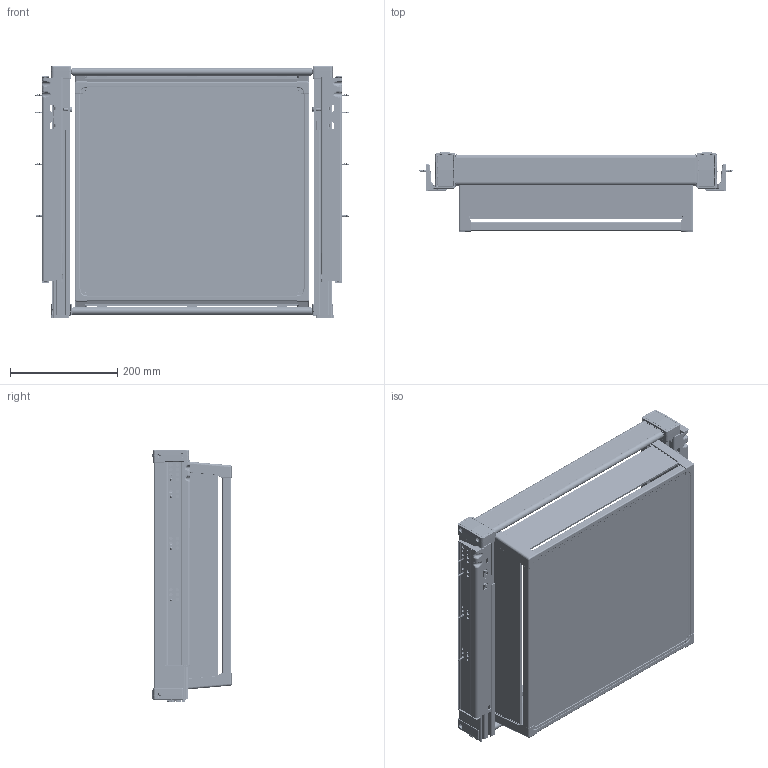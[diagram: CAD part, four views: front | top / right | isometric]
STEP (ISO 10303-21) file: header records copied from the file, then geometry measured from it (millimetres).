
FILE_DESCRIPTION (( 'STEP AP203' ), '1' );
FILE_NAME ('S-6701.STEP', '2024-09-20T07:08:03', ( '' ), ( '' ), 'SwSTEP 2.0', 'SolidWorks 2020', '' );
FILE_SCHEMA (( 'CONFIG_CONTROL_DESIGN' ));
Length unit declared in the file: millimetre
Products named in the file (57): SEPET KÖÞE PLASTÝÐÝ 1; AynalamaTANDEM ÇEKMECE RAYI SOL PRÇ.7-SOL; AynalamaTANDEM ÇEKMECE RAYI SOL PRÇ.4-SOL; TANDEM ÇEKMECE RAYI SOL MJ-SOL; TANDEM ÇEKMECE RAYI SOL PRÇ.6-SOL; AynalamaAlm.Profil Arka Köþe Birleþtirme Pls SOL; PLEKSÝ 1; ASKI TUTUCU ÝÇ PROFÝL; SPSK_M5; TANDEM ÇEKMECE RAYI SOL-SOL; ASKI TUTUCU DIÞ PROFÝL; AynalamaSEPET KÖÞE PLASTÝÐÝ 1; PLEKSÝ 1 MONTAJ; AynalamaALM.PROFÝL ÖN KÖÞE BÝRLEÞTÝRME PLST.; TANDEM ÇEKMECE RAYI SOL PRÇ.4-SOL; TANDEM RAY KAPAMA PLS.SAÐ; Sepet Cam Conta; D365 - SEPET ASKISI; Alm.Profil Birleþtirme Ýç Parça Plst; TANDEM ÇEKMECE RAYI SOL PRÇ.7-SOL; AynalamaTANDEM ÇEKMECE RAYI SOL PRÇ.5-SOL; SEPET KÖÞE PLASTÝÐÝ 2; AynalamaTANDEM ÇEKMECE RAYI SOL PRÇ.6-SOL; TANDEM ÇEKMECE RAYI SOL PRÇ.2-SOL; RAY KAPAMA PROFÝLÝ; AynalamaTANDEM ÇEKMECE RAYI SOL MJ-SOL; 594mm KANALLI SEPET PROFÝLÝ; PLEKSÝ 2 MONTAJ; 366mm KANALLI SEPET PROFÝLÝ; TANDEM RAY KAPAMA PLS.SOL; TANDEM ÇEKMECE RAYI SOL PRÇ.3-SOL; AynalamaTANDEM ÇEKMECE RAYI SOL PRÇ.3-SOL; AynalamaSepet Cam Conta; Profil Perçin; KÖÞE BÝRLEÞTÝRME KAPAK PLASTÝÐÝ; square nut thin grade b_din_Square nut DIN 562 M4 -S; 594mm DÜZ SEPET PROFÝLÝ; AynalamaTANDEM ÇEKMECE RAYI SOL PRÇ.2-SOL; pan head cross recess screw_din_DIN EN ISO 7045 - M4 x 8 - Z - 8S; AynalamaSEPET KÖÞE PLASTÝÐÝ 2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
Assembly tree (122 placements, depth 4):
  S-6701
    RAY KAPAMA PROFÝLÝ  x2
    Alm.Profil Arka Köþe Birleþtirme Pls SOL
    ALM.PROFÝL ÖN KÖÞE BÝRLEÞTÝRME PLST.
    TANDEM ÇEKMECE RAYI SOL MJ-SOL
      TANDEM ÇEKMECE RAYI SOL-SOL
      TANDEM ÇEKMECE RAYI SOL PRÇ.2-SOL
      TANDEM ÇEKMECE RAYI SOL PRÇ.3-SOL
      TANDEM ÇEKMECE RAYI SOL PRÇ.4-SOL
      TANDEM ÇEKMECE RAYI SOL PRÇ.5-SOL
      TANDEM ÇEKMECE RAYI SOL PRÇ.6-SOL
      TANDEM ÇEKMECE RAYI SOL PRÇ.7-SOL
      TANDEM ÇEKMECE RAYI SOL PYSTON-SOL
      TANDEM ÇEKMECE RAYI SOL PYSTON YAYI-SOL  x2
    ASKI TUTUCU DIÞ PROFÝL  x2
    ASKI TUTUCU ÝÇ PROFÝL  x2
    D365 - SEPET ASKISI  x6
    AynalamaALM.PROFÝL ÖN KÖÞE BÝRLEÞTÝRME PLST.
    AynalamaAlm.Profil Arka Köþe Birleþtirme Pls SOL
    AynalamaTANDEM ÇEKMECE RAYI SOL MJ-SOL
      AynalamaTANDEM ÇEKMECE RAYI SOL-SOL
      AynalamaTANDEM ÇEKMECE RAYI SOL PRÇ.2-SOL
      AynalamaTANDEM ÇEKMECE RAYI SOL PRÇ.3-SOL
      AynalamaTANDEM ÇEKMECE RAYI SOL PRÇ.4-SOL
      AynalamaTANDEM ÇEKMECE RAYI SOL PRÇ.5-SOL
      AynalamaTANDEM ÇEKMECE RAYI SOL PRÇ.6-SOL
      AynalamaTANDEM ÇEKMECE RAYI SOL PRÇ.7-SOL
      AynalamaTANDEM ÇEKMECE RAYI SOL PYSTON-SOL
      AynalamaTANDEM ÇEKMECE RAYI SOL PYSTON YAYI-SOL  x2
    Alm.Profil Birleþtirme Ýç Parça Plst  x4
    square nut thin grade b_din_Square nut DIN 562 M4 -S  x4
    pan head cross recess screw_din_DIN EN ISO 7045 - M4 x 8 - Z - 8S  x4
    cross fh tapping 7976_din_Tapping screw DIN 7982-ST3.5x19-C-Z-S  x16
    SPSK_M5  x2
    pan head cross collar screw_din_DIN 967 - M5 x 20 - Z --- 18.4S  x2
    KÖÞE BÝRLEÞTÝRME KAPAK PLASTÝÐÝ  x2
    TANDEM RAY KAPAMA PLS.SAÐ
    TANDEM RAY KAPAMA PLS.SOL
    T.R.KAPAMA PLST.V媶A TAPASI  x8
    SEPET
      SUNTA
      SEPET KÖÞE PLASTÝÐÝ 1
      SEPET KÖÞE PLASTÝÐÝ 2
      AynalamaSEPET KÖÞE PLASTÝÐÝ 2
      AynalamaSEPET KÖÞE PLASTÝÐÝ 1
      388mm DÜZ SEPET PROFÝLÝ  x2
      594mm DÜZ SEPET PROFÝLÝ  x2
      366mm KANALLI SEPET PROFÝLÝ  x2
      594mm KANALLI SEPET PROFÝLÝ  x2
      PLEKSÝ 1 MONTAJ  x2
        PLEKSÝ 1
        Sepet Cam Conta
        AynalamaSepet Cam Conta
      PLEKSÝ 2 MONTAJ  x2
        PLEKSÝ 2
        Sepet Cam Conta
        AynalamaSepet Cam Conta
      Profil Perçin  x8
      Ø3,2 POP PERÇÝN  x8
Bounding box: 586.09 x 147.53 x 470.5 mm (x, y, z)
Volume: 3017405.4 mm3; surface area: 2346777.7 mm2
Topology: 121 solids, 121 shells, 9174 faces, 22650 edges, 13726 vertices
Faces by surface type: plane 3242, cylinder 3094, cone 1594, torus 598, bspline 516, sphere 130
Entity records: 239586 total; most frequent: CARTESIAN_POINT 104902, ORIENTED_EDGE 27080, DIRECTION 26377, EDGE_CURVE 13540, AXIS2_PLACEMENT_3D 9540, VERTEX_POINT 8424, VECTOR 7297, LINE 7297
